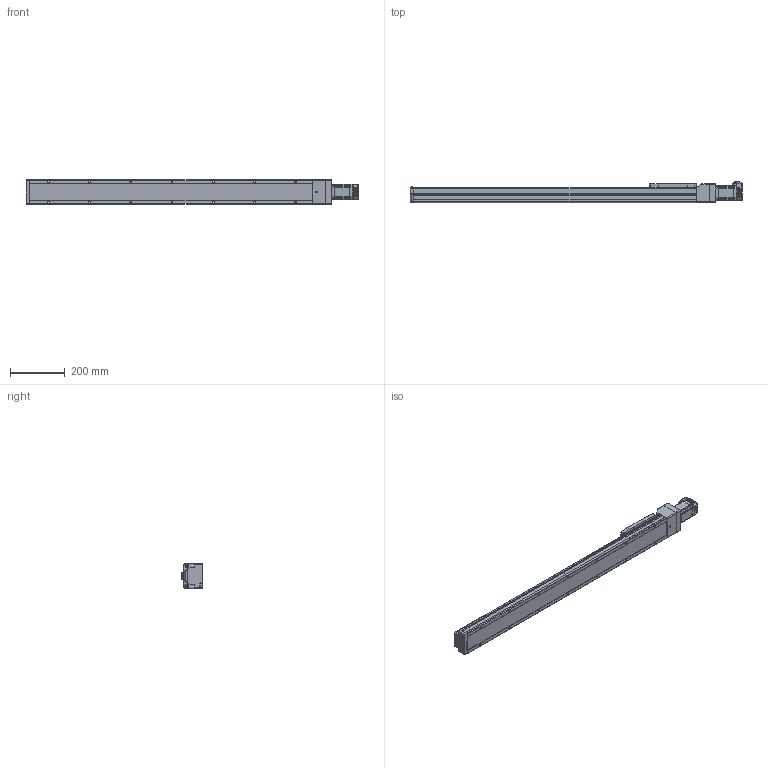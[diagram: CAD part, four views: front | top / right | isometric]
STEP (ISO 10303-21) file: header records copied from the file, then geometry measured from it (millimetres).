
FILE_DESCRIPTION (( 'STEP AP214' ), '1' );
FILE_NAME ('LEFS3(+)-40NM1仩-850-23L.STEP', '2023-06-02T05:19:41', ( '' ), ( '' ), 'SwSTEP 2.0', 'SolidWorks 2019', '' );
FILE_SCHEMA (( 'AUTOMOTIVE_DESIGN' ));
Length unit declared in the file: millimetre
Products named in the file (5): LEFS3(+)-40NM1_TABLE; LEFS3(+)-40NM1?_BODY_850; CM3(+)-23L50A_4-M4; LEFS3(+)-40NM1_Motor Flange; LEFS3(+)-40NM1仩-850-23L
Assembly tree (4 placements, depth 2):
  LEFS3(+)-40NM1仩-850-23L
    LEFS3(+)-40NM1?_BODY_850
    LEFS3(+)-40NM1_TABLE
    LEFS3(+)-40NM1_Motor Flange
    CM3(+)-23L50A_4-M4
Bounding box: 1207.6 x 76.75 x 90 mm (x, y, z)
Volume: 5050237.6 mm3; surface area: 438758.5 mm2
Topology: 5 solids, 14 shells, 1662 faces, 4317 edges, 2672 vertices
Faces by surface type: plane 764, cylinder 527, bspline 133, cone 117, torus 74, sphere 47
Entity records: 56369 total; most frequent: CARTESIAN_POINT 14057, ORIENTED_EDGE 8484, DIRECTION 7922, EDGE_CURVE 4242, AXIS2_PLACEMENT_3D 2700, VERTEX_POINT 2672, LINE 2522, VECTOR 2522
